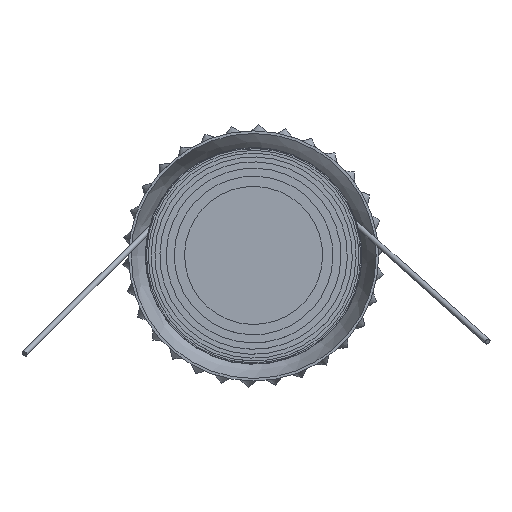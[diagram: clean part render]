
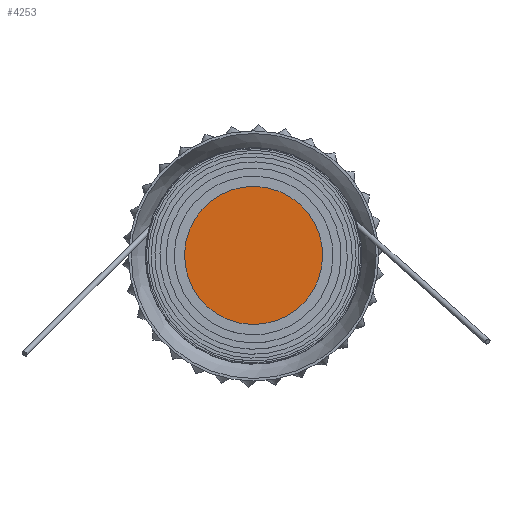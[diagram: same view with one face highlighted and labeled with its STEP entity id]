
A CAD part, top view. The second image highlights one B-rep face of the part: STEP entity #4253.
In plain terms, the highlighted planar face has unit normal (0, 0, 1).
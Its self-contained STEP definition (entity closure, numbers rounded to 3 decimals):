
#586=LINE('',#5993,#757);
#757=VECTOR('',#4973,10.);
#963=FACE_OUTER_BOUND('',#1202,.T.);
#1202=EDGE_LOOP('',(#2867,#2868,#2869,#2870));
#1546=CIRCLE('',#4523,14.356);
#1547=CIRCLE('',#4524,14.356);
#1678=VERTEX_POINT('',#5988);
#1679=VERTEX_POINT('',#5989);
#1680=VERTEX_POINT('',#5992);
#2207=EDGE_CURVE('',#1678,#1679,#1546,.T.);
#2208=EDGE_CURVE('',#1679,#1678,#1547,.T.);
#2209=EDGE_CURVE('',#1680,#1678,#586,.T.);
#2867=ORIENTED_EDGE('',*,*,#2207,.T.);
#2868=ORIENTED_EDGE('',*,*,#2208,.T.);
#2869=ORIENTED_EDGE('',*,*,#2209,.F.);
#2870=ORIENTED_EDGE('',*,*,#2209,.T.);
#4159=PLANE('',#4522);
#4253=ADVANCED_FACE('',(#963),#4159,.T.);
#4522=AXIS2_PLACEMENT_3D('',#5987,#4967,#4968);
#4523=AXIS2_PLACEMENT_3D('',#5990,#4969,#4970);
#4524=AXIS2_PLACEMENT_3D('',#5991,#4971,#4972);
#4967=DIRECTION('center_axis',(0.,0.,1.));
#4968=DIRECTION('ref_axis',(1.,0.,0.));
#4969=DIRECTION('center_axis',(0.,0.,
1.));
#4970=DIRECTION('ref_axis',(0.622,-0.783,0.));
#4971=DIRECTION('center_axis',(0.,0.,
1.));
#4972=DIRECTION('ref_axis',(0.622,-0.783,0.));
#4973=DIRECTION('',(0.783,0.622,0.));
#5987=CARTESIAN_POINT('Origin',(-627.229,4.463,137.748));
#5988=CARTESIAN_POINT('',(-621.607,8.927,137.748));
#5989=CARTESIAN_POINT('',(-644.094,-8.927,137.748));
#5990=CARTESIAN_POINT('Origin',(-632.851,0.,137.748));
#5991=CARTESIAN_POINT('Origin',(-632.851,0.,137.748));
#5992=CARTESIAN_POINT('',(-632.851,0.,137.748));
#5993=CARTESIAN_POINT('',(-632.851,0.,137.748));
